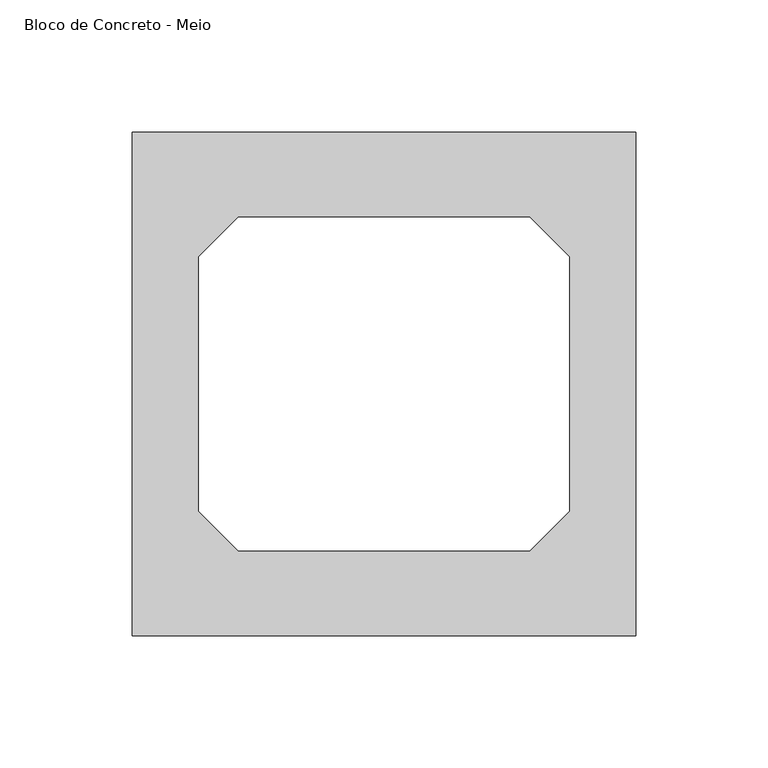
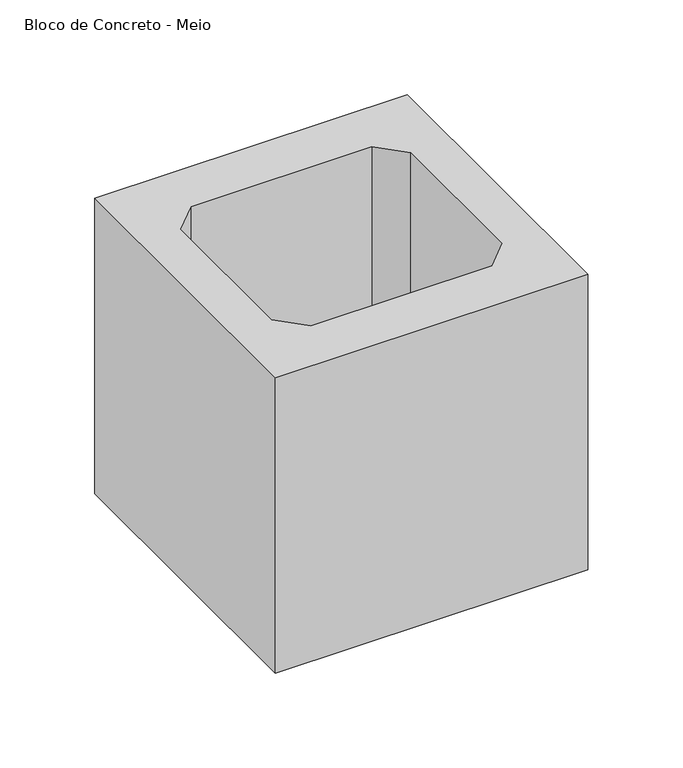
"""IFC4 building model written with IfcOpenShell, lengths in millimetres: proxy geometry, Bloco de Concreto - Meio : Família 20 x 40 - Classe A."""

from ifc_helpers import new_model, si_unit, origin, origin_with_axes, place, context, project, spatial, polyline, outline, extrude, source, transform, mapped, element, save


def bloco_de_concreto_meio_6c498778(model_context):
    return source(origin(), model_context, "Body", "SweptSolid", [
        extrude(outline(polyline([(95.0, -95.0), (-95.0, -95.0), (-95.0, 95.0), (95.0, 95.0), (95.0, -95.0)]), holes=[polyline([(55.0, -63.0), (70.0, -48.0), (70.0, 48.0), (55.0, 63.0), (-55.0, 63.0), (-70.0, 48.0), (-70.0, -48.0), (-55.0, -63.0), (55.0, -63.0)])]), origin_with_axes(), (0.0, 0.0, 1.0), 190.0),
    ])


if __name__ == "__main__":
    model = new_model("IFC4")
    model_context = context("Model", 3, world=origin())
    ifc_project = project(units=[si_unit("LENGTHUNIT", "METRE", prefix="MILLI")], contexts=[model_context])
    site = spatial("IfcSite", under=ifc_project)
    building = spatial("IfcBuilding", under=site)
    placement = place(None, origin())
    bloco_de_concreto_meio_shape = bloco_de_concreto_meio_6c498778(model_context)
    element("IfcBuildingElementProxy", 1, Name="Bloco de Concreto - Meio : Família 20 x 40 - Classe A", ObjectType="Bloco de Concreto - Meio : Família 20 x 40 - Classe A", at=placement, inside=building, context=model_context, shape_type="MappedRepresentation", body=[
        mapped(bloco_de_concreto_meio_shape, transform((0.0, 0.0, 0.0), x_axis=(1.0, 0.0, 0.0), y_axis=(0.0, 1.0, 0.0), z_axis=(0.0, 0.0, 1.0))),
    ])
    save(model, "model.ifc")
